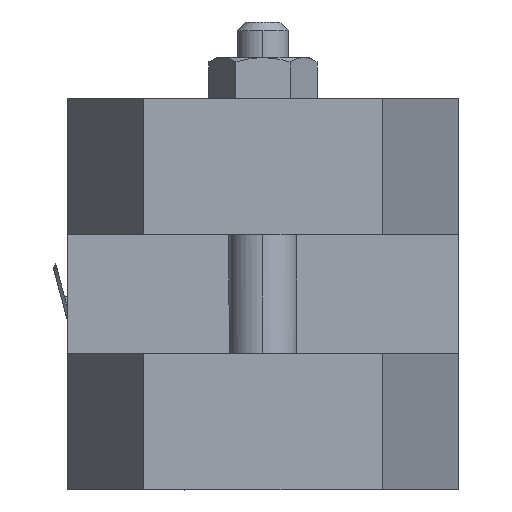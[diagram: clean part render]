
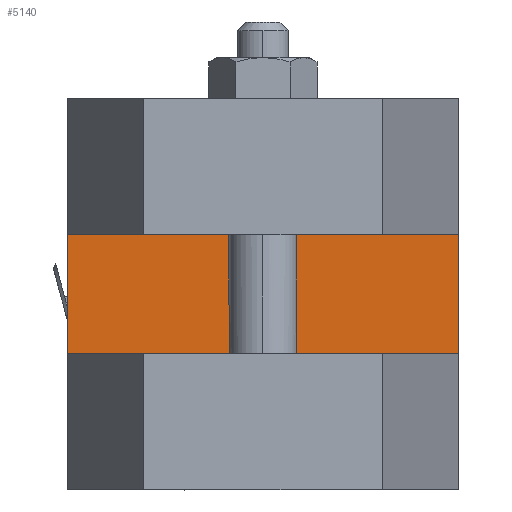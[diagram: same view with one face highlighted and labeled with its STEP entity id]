
A CAD part, left-side view. The second image highlights one B-rep face of the part: STEP entity #5140.
In plain terms, the highlighted planar face has unit normal (1, 0, 0).
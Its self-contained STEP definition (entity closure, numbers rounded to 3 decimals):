
#165 = FACE_OUTER_BOUND ( 'NONE', #453, .T. ) ;
#274 = AXIS2_PLACEMENT_3D ( 'NONE', #6533, #6519, #6512 ) ;
#453 = EDGE_LOOP ( 'NONE', ( #5817, #2925, #2346, #8074 ) ) ;
#864 = DIRECTION ( 'NONE',  ( 0., 0., -1. ) ) ;
#922 = CARTESIAN_POINT ( 'NONE',  ( 15.245, 8.003, -16.2 ) ) ;
#986 = CARTESIAN_POINT ( 'NONE',  ( 15.245, 8.003, -12.7 ) ) ;
#1604 = B_SPLINE_CURVE_WITH_KNOTS ( 'NONE', 1,
 ( #8096, #922 ),
 .UNSPECIFIED., .F., .F.,
 ( 2, 2 ),
 ( 0., 23. ),
 .UNSPECIFIED. ) ;
#1843 = LINE ( 'NONE', #986, #3866 ) ;
#1967 = VERTEX_POINT ( 'NONE', #5136 ) ;
#2227 = CARTESIAN_POINT ( 'NONE',  ( 15.245, -3.497, -9.2 ) ) ;
#2346 = ORIENTED_EDGE ( 'NONE', *, *, #3742, .F. ) ;
#2729 = CARTESIAN_POINT ( 'NONE',  ( 15.245, -14.997, -16.2 ) ) ;
#2925 = ORIENTED_EDGE ( 'NONE', *, *, #4801, .F. ) ;
#3742 = EDGE_CURVE ( 'NONE', #5772, #1967, #5334, .T. ) ;
#3866 = VECTOR ( 'NONE', #864, 1000. ) ;
#4176 = VECTOR ( 'NONE', #5011, 1000. ) ;
#4552 = EDGE_CURVE ( 'NONE', #5685, #6151, #1843, .T. ) ;
#4801 = EDGE_CURVE ( 'NONE', #1967, #5685, #6494, .T. ) ;
#4906 = EDGE_CURVE ( 'NONE', #5772, #6151, #1604, .T. ) ;
#5011 = DIRECTION ( 'NONE',  ( 0., 1., 0. ) ) ;
#5136 = CARTESIAN_POINT ( 'NONE',  ( 15.245, -14.997, -9.2 ) ) ;
#5140 = ADVANCED_FACE ( 'NONE', ( #165 ), #6571, .T. ) ;
#5334 = LINE ( 'NONE', #7786, #6786 ) ;
#5685 = VERTEX_POINT ( 'NONE', #6360 ) ;
#5772 = VERTEX_POINT ( 'NONE', #2729 ) ;
#5817 = ORIENTED_EDGE ( 'NONE', *, *, #4552, .F. ) ;
#6151 = VERTEX_POINT ( 'NONE', #7251 ) ;
#6360 = CARTESIAN_POINT ( 'NONE',  ( 15.245, 8.003, -9.2 ) ) ;
#6494 = LINE ( 'NONE', #2227, #4176 ) ;
#6512 = DIRECTION ( 'NONE',  ( 0., 0., 1. ) ) ;
#6519 = DIRECTION ( 'NONE',  ( 1., 0., 0. ) ) ;
#6533 = CARTESIAN_POINT ( 'NONE',  ( 15.245, 8.003, -16.2 ) ) ;
#6571 = PLANE ( 'NONE',  #274 ) ;
#6786 = VECTOR ( 'NONE', #7795, 1000. ) ;
#7251 = CARTESIAN_POINT ( 'NONE',  ( 15.245, 8.003, -16.2 ) ) ;
#7786 = CARTESIAN_POINT ( 'NONE',  ( 15.245, -14.997, -12.7 ) ) ;
#7795 = DIRECTION ( 'NONE',  ( 0., 0., 1. ) ) ;
#8074 = ORIENTED_EDGE ( 'NONE', *, *, #4906, .T. ) ;
#8096 = CARTESIAN_POINT ( 'NONE',  ( 15.245, -14.997, -16.2 ) ) ;
